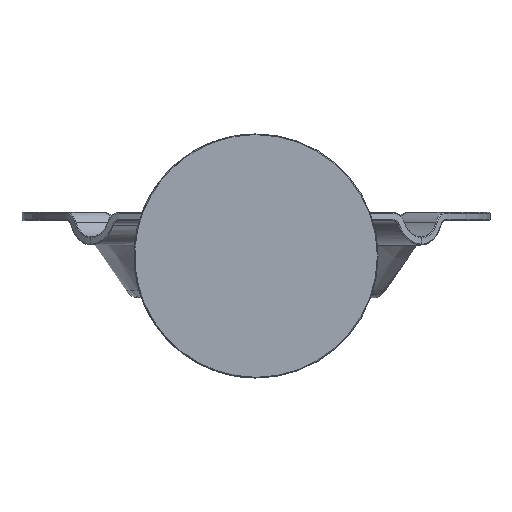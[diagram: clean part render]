
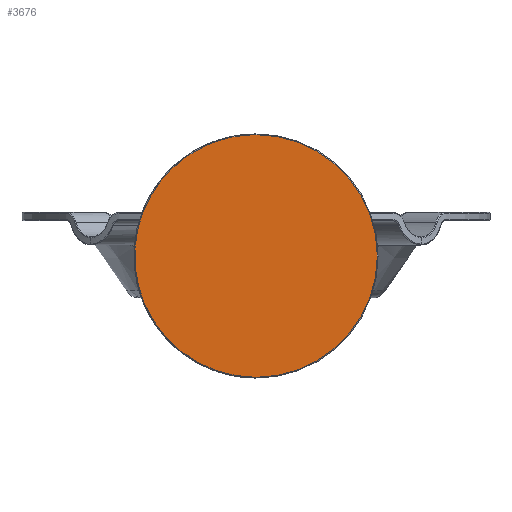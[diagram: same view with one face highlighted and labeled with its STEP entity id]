
A CAD part, front view. The second image highlights one B-rep face of the part: STEP entity #3676.
In plain terms, the highlighted planar face has unit normal (0, -1, 0).
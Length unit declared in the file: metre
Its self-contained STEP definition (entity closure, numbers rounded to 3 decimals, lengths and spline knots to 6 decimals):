
#62=EDGE_CURVE('',#63,#65,#67,.F.);
#63=VERTEX_POINT('',#64);
#64=CARTESIAN_POINT('',(0.0,-0.014,-0.0298));
#65=VERTEX_POINT('',#66);
#66=CARTESIAN_POINT('',(0.0,-0.014,0.0298));
#67=CIRCLE('',#68,0.0298);
#68=AXIS2_PLACEMENT_3D('',#69,#70,#71);
#69=CARTESIAN_POINT('',(0.0,-0.014,0.0));
#70=DIRECTION('',(0.0,1.0,0.0));
#71=DIRECTION('',(0.0,0.0,1.0));
#3676=ADVANCED_FACE('',(#3682),#3677,.F.);
#3677=PLANE('',#3678);
#3678=AXIS2_PLACEMENT_3D('',#3679,#3680,#3681);
#3679=CARTESIAN_POINT('',(0.0,-0.014,0.03));
#3680=DIRECTION('',(0.0,1.0,0.0));
#3681=DIRECTION('',(0.0,0.0,1.0));
#3682=FACE_OUTER_BOUND('',#3683,.T.);
#3683=EDGE_LOOP('',(#3684,#3692));
#3684=ORIENTED_EDGE('',*,*,#3686,.T.);
#3685=CARTESIAN_POINT('',(0.0,-0.014,-0.0298));
#3686=EDGE_CURVE('',#65,#63,#3687,.F.);
#3687=(B_SPLINE_CURVE(3,(#3685,#3688,#3689,#3690),.UNSPECIFIED.,.F.,.U.)B_SPLINE_CURVE_WITH_KNOTS(
  (4,4),(0.0,1.0),.UNSPECIFIED.)BOUNDED_CURVE()CURVE()GEOMETRIC_REPRESENTATION_ITEM(
  )RATIONAL_B_SPLINE_CURVE((1.0,0.333,0.333,1.0)
  )REPRESENTATION_ITEM(''));
#3688=CARTESIAN_POINT('',(-0.0596,-0.014,-0.0298));
#3689=CARTESIAN_POINT('',(-0.0596,-0.014,0.0298));
#3690=CARTESIAN_POINT('',(0.0,-0.014,0.0298));
#3692=ORIENTED_EDGE('',*,*,#62,.T.);
